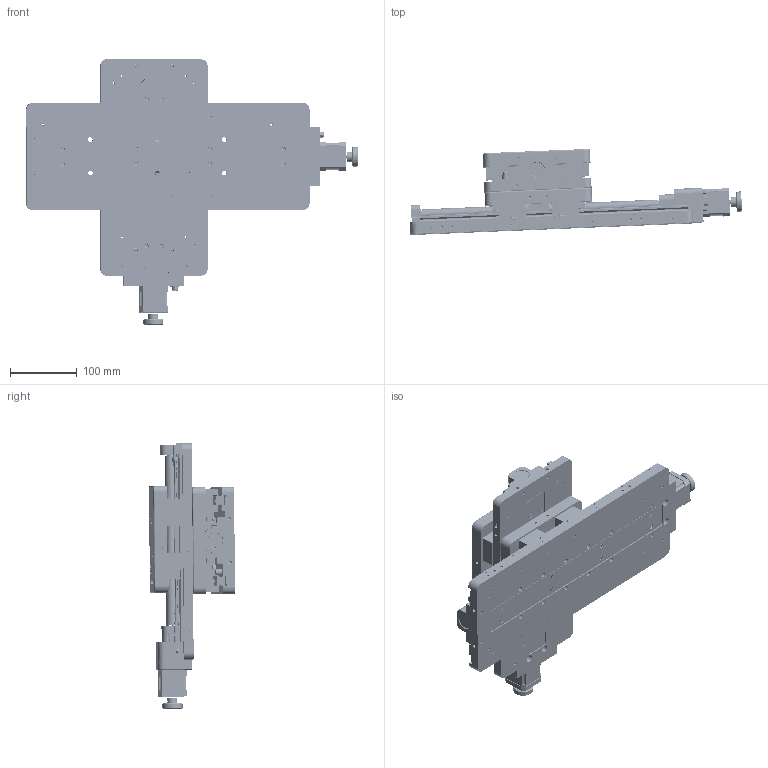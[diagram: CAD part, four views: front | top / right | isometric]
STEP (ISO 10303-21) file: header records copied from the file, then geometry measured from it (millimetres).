
FILE_DESCRIPTION (( 'STEP AP203' ), '1' );
FILE_NAME ('7SAA201.STEP', '2020-07-10T01:23:00', ( '' ), ( '' ), 'SwSTEP 2.0', 'SolidWorks 2018', '' );
FILE_SCHEMA (( 'CONFIG_CONTROL_DESIGN' ));
Products named in the file (3): 7SAA201; 7STA02200B-0萇雄す痄怢; 7STA02100B萇雄す痄怢
Assembly tree (2 placements, depth 2):
  7SAA201
    7STA02200B-0萇雄す痄怢
    7STA02100B萇雄す痄怢
Bounding box: 495.72 x 128.35 x 396.38 mm (x, y, z)
Volume: 1869944.3 mm3; surface area: 817315.9 mm2
Topology: 117 solids, 190 shells, 5052 faces, 13632 edges, 8720 vertices
Faces by surface type: plane 2396, cylinder 1673, cone 590, torus 273, sphere 120
Entity records: 175047 total; most frequent: CARTESIAN_POINT 56063, ORIENTED_EDGE 24859, DIRECTION 22741, EDGE_CURVE 13106, AXIS2_PLACEMENT_3D 8884, VERTEX_POINT 8624, EDGE_LOOP 6030, ADVANCED_FACE 5052
